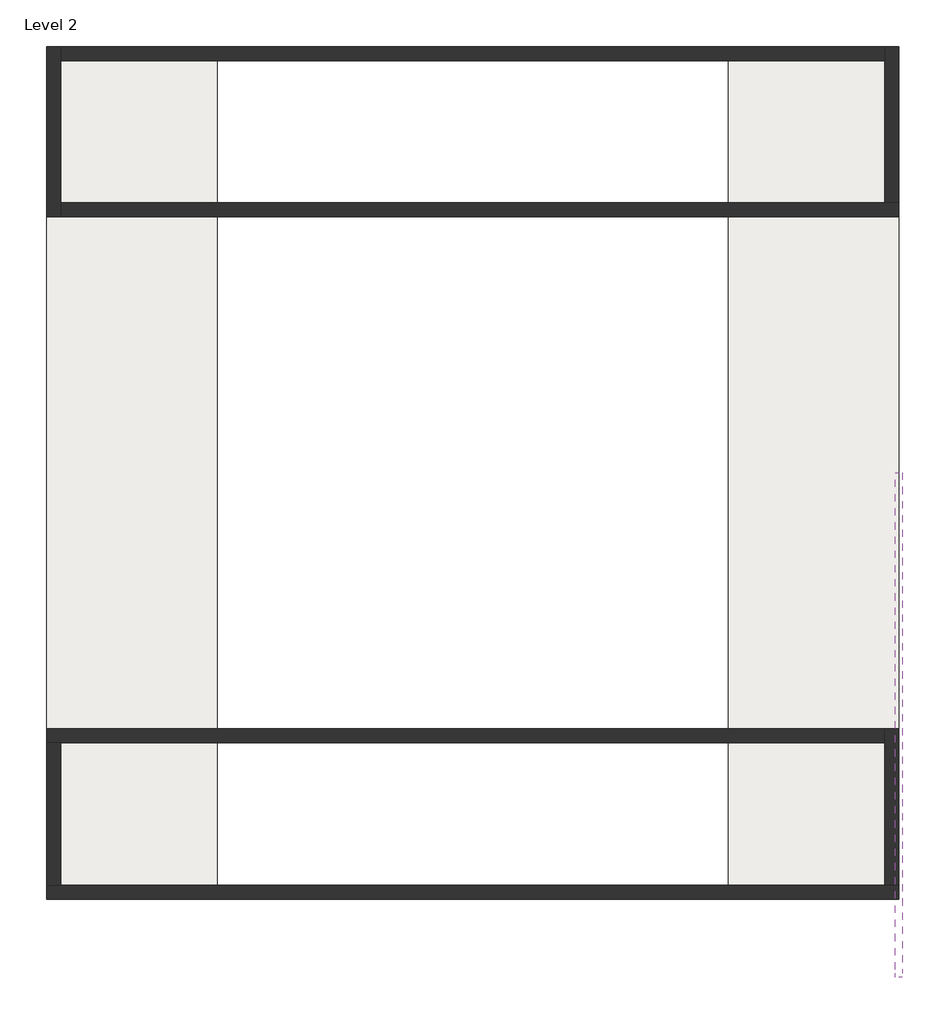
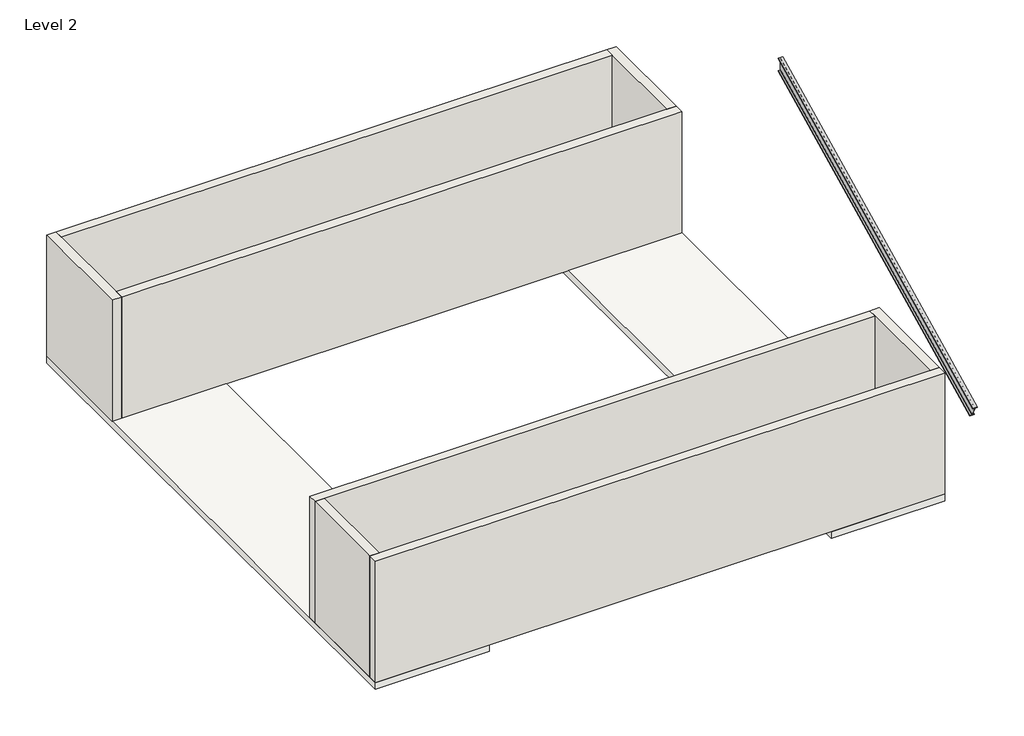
# One storey: 8 walls, 2 slabs, 1 beam.
"""IFC4 building model written with IfcOpenShell, lengths in millimetres."""

from ifc_helpers import new_model, si_unit, frame, origin, place, context, project, spatial, polyline, circle_curve, ellipse_curve, outline, extrude, faceted_brep, element, save
from ifc_brep_helpers import plane_surface, revolved_surface, advanced_brep

model = new_model("IFC4")

# Units and contexts
model_context = context("Model", 3, world=origin())
ifc_project = project(units=[si_unit("LENGTHUNIT", "METRE", prefix="MILLI")], contexts=[model_context])

# Site, building, storey
site = spatial("IfcSite", under=ifc_project)
building = spatial("IfcBuilding", under=site)
storey = spatial("IfcBuildingStorey", under=building, Name="Level 2", Elevation=3290.0)

# Beam
placement = place(None, origin())
element("IfcBeam", 1, ObjectType="UB-Universal Beam : 254x102x28UB", at=placement, inside=storey, context=model_context, shape_type="AdvancedBrep", body=[
    advanced_brep(
    [(7919.2608738, -6707.4923762, 5694.2456688), (7919.2608738, -6703.0704259, 5685.2764796), (8021.4608738, -6703.0704259, 5685.2764796), (8021.4608738, -6707.4923762, 5694.2456688), (7981.1108738, -6707.4923762, 5694.2456688), (7973.5108738, -6710.8530584, 5701.0622526), (7973.5108738, -6810.4353796, 5903.048394), (7981.1108738, -6813.7960618, 5909.8649778), (8021.4608738, -6813.7960618, 5909.8649778), (8021.4608738, -6818.2180121, 5918.834167), (7919.2608738, -6818.2180121, 5918.834167), (7919.2608738, -6813.7960618, 5909.8649778), (7959.6108738, -6813.7960618, 5909.8649778), (7967.2108738, -6810.4353796, 5903.048394), (7967.2108738, -6710.8530584, 5701.0622526), (7959.6108738, -6707.4923762, 5694.2456688), (7959.6108738, 385.3937471, 9191.1492628), (7919.2608738, 385.3937471, 9191.1492628), (7967.2108738, 385.3937178, 9199.622701), (7967.2108738, 385.3928489, 9450.704053), (7959.6108738, 385.3928195, 9459.1774912), (7919.2608738, 385.3928195, 9459.1774912), (7919.2608738, 385.392781, 9470.326752), (8021.4608738, 385.392781, 9470.326752), (8021.4608738, 385.3928195, 9459.1774912), (7981.1108738, 385.3928195, 9459.1774912), (7973.5108738, 385.3928489, 9450.704053), (7973.5108738, 385.3937178, 9199.622701), (7981.1108738, 385.3937471, 9191.1492628), (8021.4608738, 385.3937471, 9191.1492628), (8021.4608738, 385.3937857, 9180.0000021), (7919.2608738, 385.3937857, 9180.0000021)],
    [
        (0, 1),
        (1, 2),
        (2, 3),
        (3, 4),
        (4, 5, circle_curve(frame((7981.1108738, -6710.8530584, 5701.0622526), z_axis=(0.0, 0.89691892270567, 0.4421950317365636), x_axis=(0.0, 0.4421950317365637, -0.8969189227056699)), 7.6)),
        (5, 6),
        (6, 7, circle_curve(frame((7981.1108738, -6810.4353796, 5903.048394), z_axis=(0.0, 0.89691892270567, 0.4421950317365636), x_axis=(-1.0, 0.0, 0.0)), 7.6)),
        (7, 8),
        (8, 9),
        (9, 10),
        (10, 11),
        (11, 12),
        (12, 13, circle_curve(frame((7959.6108738, -6810.4353796, 5903.048394), z_axis=(0.0, 0.89691892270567, 0.4421950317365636), x_axis=(0.0, -0.4421950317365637, 0.8969189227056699)), 7.6)),
        (13, 14),
        (14, 15, circle_curve(frame((7959.6108738, -6710.8530584, 5701.0622526), z_axis=(0.0, 0.89691892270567, 0.4421950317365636), x_axis=(1.0, 0.0, 0.0)), 7.6)),
        (15, 0),
        (16, 17),
        (17, 0),
        (15, 16),
        (18, 16, ellipse_curve(frame((7959.6108738, 385.3937178, 9199.622701), z_axis=(0.0, 0.9999999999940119, 3.4606665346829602e-06), x_axis=(0.0, 3.460666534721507e-06, -0.9999999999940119)), 8.4734382, 7.6)),
        (14, 18),
        (19, 18),
        (13, 19),
        (20, 19, ellipse_curve(frame((7959.6108738, 385.3928489, 9450.704053), z_axis=(0.0, 0.9999999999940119, 3.4606665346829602e-06), x_axis=(0.0, 3.460666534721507e-06, -0.9999999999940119)), 8.4734382, 7.6)),
        (12, 20),
        (21, 20),
        (11, 21),
        (22, 21),
        (10, 22),
        (23, 22),
        (9, 23),
        (24, 23),
        (8, 24),
        (25, 24),
        (7, 25),
        (26, 25, ellipse_curve(frame((7981.1108738, 385.3928489, 9450.704053), z_axis=(0.0, 0.9999999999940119, 3.4606665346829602e-06), x_axis=(0.0, 3.460666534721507e-06, -0.9999999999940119)), 8.4734382, 7.6)),
        (6, 26),
        (27, 26),
        (5, 27),
        (28, 27, ellipse_curve(frame((7981.1108738, 385.3937178, 9199.622701), z_axis=(0.0, 0.9999999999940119, 3.4606665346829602e-06), x_axis=(0.0, 3.460666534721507e-06, -0.9999999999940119)), 8.4734382, 7.6)),
        (4, 28),
        (29, 28),
        (3, 29),
        (30, 29),
        (2, 30),
        (31, 30),
        (1, 31),
        (17, 31),
    ],
    [
        plane_surface(frame((7970.3608738, -6760.644219, 5802.0553233), z_axis=(0.0, -0.8969189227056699, -0.4421950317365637), x_axis=(0.0, -0.4421950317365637, 0.8969189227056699))),
        plane_surface(frame((7939.4358738, 380.9718332, 9188.9691903), z_axis=(0.0, -0.4421950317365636, 0.89691892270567), x_axis=(1.0, 0.0, 0.0))),
        revolved_surface(polyline([(7967.210873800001, -6710.853058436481, 5701.062252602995), (7967.210873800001, 388.75437071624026, 9201.279555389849)]), (7959.6108738, 377.611151, 9195.7857741), (0.0, -0.89691892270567, -0.4421950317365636)),
        plane_surface(frame((7967.2108738, 327.8199904, 9296.7788448), z_axis=(-1.0, 0.0, 0.0), x_axis=(0.0, -0.4421950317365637, 0.8969189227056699))),
        revolved_surface(polyline([(7959.6108738, -6813.796061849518, 5909.864977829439), (7959.6108738, 385.3928195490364, 9459.17749125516)]), (7959.6108738, 278.0288298, 9397.7719155), (0.0, -0.89691892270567, -0.4421950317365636)),
        plane_surface(frame((7939.4358738, 274.6681476, 9404.5884993), z_axis=(0.0, 0.4421950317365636, -0.89691892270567), x_axis=(-1.0, 0.0, 0.0))),
        plane_surface(frame((7919.2608738, 272.4571724, 9409.0730939), z_axis=(-1.0, 0.0, 0.0), x_axis=(0.0, -0.4421950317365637, 0.8969189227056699))),
        plane_surface(frame((7970.3608738, 270.2461973, 9413.5576885), z_axis=(0.0, -0.4421950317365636, 0.89691892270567), x_axis=(1.0, 0.0, 0.0))),
        plane_surface(frame((8021.4608738, 272.4571724, 9409.0730939), z_axis=(1.0, 0.0, 0.0), x_axis=(0.0, 0.4421950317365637, -0.8969189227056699))),
        plane_surface(frame((8001.2858738, 274.6681476, 9404.5884993), z_axis=(0.0, 0.4421950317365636, -0.89691892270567), x_axis=(-1.0, 0.0, 0.0))),
        revolved_surface(polyline([(7973.5108738, -6810.4353796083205, 5903.048394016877), (7973.5108738, 388.7535017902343, 9452.360907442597)]), (7981.1108738, 278.0288298, 9397.7719155), (0.0, -0.89691892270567, -0.4421950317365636)),
        plane_surface(frame((7973.5108738, 327.8199904, 9296.7788448), z_axis=(1.0, 0.0, 0.0), x_axis=(0.0, 0.4421950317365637, -0.8969189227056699))),
        revolved_surface(polyline([(7981.1108738, -6707.492376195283, 5694.245668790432), (7981.1108738, 392.11505295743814, 9194.462971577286)]), (7981.1108738, 377.611151, 9195.7857741), (0.0, -0.89691892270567, -0.4421950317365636)),
        plane_surface(frame((8001.2858738, 380.9718332, 9188.9691903), z_axis=(0.0, -0.4421950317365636, 0.89691892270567), x_axis=(1.0, 0.0, 0.0))),
        plane_surface(frame((8021.4608738, 383.1828084, 9184.4845957), z_axis=(1.0, 0.0, 0.0), x_axis=(0.0, 0.4421950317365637, -0.8969189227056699))),
        plane_surface(frame((7970.3608738, 385.3937835, 9180.0000011), z_axis=(0.0, 0.4421950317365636, -0.89691892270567), x_axis=(-1.0, 0.0, 0.0))),
        plane_surface(frame((7919.2608738, 383.1828084, 9184.4845957), z_axis=(-1.0, 0.0, 0.0), x_axis=(0.0, -0.4421950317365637, 0.8969189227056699))),
        plane_surface(frame((7970.3608738, 385.3937857, 9180.0000021), z_axis=(0.0, 0.9999999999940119, 3.4606665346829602e-06), x_axis=(0.0, 3.4606665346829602e-06, -0.9999999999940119))),
    ],
    [
        (0, [[1, 2, 3, 4, 5, 6, 7, 8, 9, 10, 11, 12, 13, 14, 15, 16]]),
        (1, [[17, 18, -16, 19]]),
        (2, [[20, -19, -15, 21]]),
        (3, [[22, -21, -14, 23]]),
        (4, [[24, -23, -13, 25]]),
        (5, [[26, -25, -12, 27]]),
        (6, [[28, -27, -11, 29]]),
        (7, [[30, -29, -10, 31]]),
        (8, [[32, -31, -9, 33]]),
        (9, [[34, -33, -8, 35]]),
        (10, [[36, -35, -7, 37]]),
        (11, [[38, -37, -6, 39]]),
        (12, [[40, -39, -5, 41]]),
        (13, [[42, -41, -4, 43]]),
        (14, [[44, -43, -3, 45]]),
        (15, [[46, -45, -2, 47]]),
        (16, [[48, -47, -1, -18]]),
        (17, [[-17, -20, -22, -24, -26, -28, -30, -32, -34, -36, -38, -40, -42, -44, -46, -48]]),
    ],
),
])

# Slabs
element("IfcSlab", 2, ObjectType="150mm Foundation Slab", at=placement, inside=storey, context=model_context, shape_type="SweptSolid", body=[
    extrude(outline(polyline([(7970.3608738, 6470.3937814), (7970.3608738, -5699.6062186), (5540.3608738, -5699.6062186), (5540.3608738, 6470.3937814), (7970.3608738, 6470.3937814)])), frame((0.0, 0.0, 3140.0), z_axis=(0.0, 0.0, 1.0), x_axis=(1.0, 0.0, 0.0)), (0.0, 0.0, 1.0), 150.0),
])
element("IfcSlab", 3, ObjectType="150mm Foundation Slab", at=placement, inside=storey, context=model_context, shape_type="SweptSolid", body=[
    extrude(outline(polyline([(-1761.6391262, 6470.3937814), (-1761.6391262, -5699.6062186), (-4199.6391262, -5699.6062186), (-4199.6391262, 6470.3937814), (-1761.6391262, 6470.3937814)])), frame((0.0, 0.0, 3140.0), z_axis=(0.0, 0.0, 1.0), x_axis=(1.0, 0.0, 0.0)), (0.0, 0.0, 1.0), 150.0),
])

# Walls
element("IfcWall", 4, ObjectType="Generic - 200mm", at=placement, inside=storey, context=model_context, shape_type="Brep", body=[
    faceted_brep([(-4199.6391262, 6470.3937814, 3290.0), (-4199.6391262, 4040.3937814, 3290.0), (-4199.6391262, 4040.3937814, 6030.0), (-4199.6391262, 6470.3937814, 6030.0), (-3999.6391262, 6470.3937814, 3290.0), (-3999.6391262, 6470.3937814, 6030.0), (-3999.6391262, 6270.3937814, 6030.0), (-3999.6391262, 4240.3937814, 6030.0), (-3999.6391262, 4040.3937814, 6030.0), (-3999.6391262, 4040.3937814, 3290.0), (-3999.6391262, 4240.3937814, 3290.0), (-3999.6391262, 6270.3937814, 3290.0)], [[[0, 1, 2, 3]], [[4, 5, 6, 7, 8, 9, 10, 11]], [[1, 0, 4, 11, 10, 9]], [[2, 1, 9, 8]], [[0, 3, 5, 4]], [[3, 2, 8, 7, 6, 5]]]),
])
element("IfcWall", 5, ObjectType="Generic - 200mm", at=placement, inside=storey, context=model_context, shape_type="Brep", body=[
    faceted_brep([(-3999.6391262, 4040.3937814, 3290.0), (7970.3608738, 4040.3937814, 3290.0), (7970.3608738, 4040.3937814, 6030.0), (-3999.6391262, 4040.3937814, 6030.0), (-3999.6391262, 4240.3937814, 3290.0), (-3999.6391262, 4240.3937814, 6030.0), (7770.3608738, 4240.3937814, 6030.0), (7970.3608738, 4240.3937814, 6030.0), (7970.3608738, 4240.3937814, 3290.0), (7770.3608738, 4240.3937814, 3290.0)], [[[0, 1, 2, 3]], [[4, 5, 6, 7, 8, 9]], [[1, 0, 4, 9, 8]], [[0, 3, 5, 4]], [[2, 1, 8, 7]], [[3, 2, 7, 6, 5]]]),
])
element("IfcWall", 6, ObjectType="Generic - 200mm", at=placement, inside=storey, context=model_context, shape_type="Brep", body=[
    faceted_brep([(7970.3608738, 4240.3937814, 3290.0), (7970.3608738, 6470.3937814, 3290.0), (7970.3608738, 6470.3937814, 6030.0), (7970.3608738, 4240.3937814, 6030.0), (7770.3608738, 4240.3937814, 3290.0), (7770.3608738, 4240.3937814, 6030.0), (7770.3608738, 6270.3937814, 6030.0), (7770.3608738, 6470.3937814, 6030.0), (7770.3608738, 6470.3937814, 3290.0), (7770.3608738, 6270.3937814, 3290.0)], [[[0, 1, 2, 3]], [[4, 5, 6, 7, 8, 9]], [[1, 0, 4, 9, 8]], [[0, 3, 5, 4]], [[2, 1, 8, 7]], [[3, 2, 7, 6, 5]]]),
])
element("IfcWall", 7, ObjectType="Generic - 200mm", at=placement, inside=storey, context=model_context, shape_type="SweptSolid", body=[
    extrude(outline(polyline([(-3999.6391262, 6470.3937814), (7770.3608738, 6470.3937814), (7770.3608738, 6270.3937814), (-3999.6391262, 6270.3937814), (-3999.6391262, 6470.3937814)])), frame((0.0, 0.0, 3290.0), z_axis=(0.0, 0.0, 1.0), x_axis=(1.0, 0.0, 0.0)), (0.0, 0.0, 1.0), 2740.0),
])
element("IfcWall", 8, ObjectType="Generic - 200mm", at=placement, inside=storey, context=model_context, shape_type="Brep", body=[
    faceted_brep([(-4199.6391262, -5699.6062186, 3290.0), (7970.3608738, -5699.6062186, 3290.0), (7970.3608738, -5699.6062186, 6030.0), (-4199.6391262, -5699.6062186, 6030.0), (-4199.6391262, -5499.6062186, 3290.0), (-4199.6391262, -5499.6062186, 6030.0), (-3999.6391262, -5499.6062186, 6030.0), (7770.3608738, -5499.6062186, 6030.0), (7970.3608738, -5499.6062186, 6030.0), (7970.3608738, -5499.6062186, 3290.0), (7770.3608738, -5499.6062186, 3290.0), (-3999.6391262, -5499.6062186, 3290.0)], [[[0, 1, 2, 3]], [[4, 5, 6, 7, 8, 9, 10, 11]], [[1, 0, 4, 11, 10, 9]], [[2, 1, 9, 8]], [[0, 3, 5, 4]], [[3, 2, 8, 7, 6, 5]]]),
])
element("IfcWall", 9, ObjectType="Generic - 200mm", at=placement, inside=storey, context=model_context, shape_type="Brep", body=[
    faceted_brep([(7970.3608738, -5499.6062186, 3290.0), (7970.3608738, -3269.6062186, 3290.0), (7970.3608738, -3269.6062186, 6030.0), (7970.3608738, -5499.6062186, 6030.0), (7770.3608738, -5499.6062186, 3290.0), (7770.3608738, -5499.6062186, 6030.0), (7770.3608738, -3469.6062186, 6030.0), (7770.3608738, -3269.6062186, 6030.0), (7770.3608738, -3269.6062186, 3290.0), (7770.3608738, -3469.6062186, 3290.0)], [[[0, 1, 2, 3]], [[4, 5, 6, 7, 8, 9]], [[1, 0, 4, 9, 8]], [[0, 3, 5, 4]], [[2, 1, 8, 7]], [[3, 2, 7, 6, 5]]]),
])
element("IfcWall", 10, ObjectType="Generic - 200mm", at=placement, inside=storey, context=model_context, shape_type="Brep", body=[
    faceted_brep([(7770.3608738, -3269.6062186, 3290.0), (-4199.6391262, -3269.6062186, 3290.0), (-4199.6391262, -3269.6062186, 6030.0), (7770.3608738, -3269.6062186, 6030.0), (7770.3608738, -3469.6062186, 3290.0), (7770.3608738, -3469.6062186, 6030.0), (-3999.6391262, -3469.6062186, 6030.0), (-4199.6391262, -3469.6062186, 6030.0), (-4199.6391262, -3469.6062186, 3290.0), (-3999.6391262, -3469.6062186, 3290.0)], [[[0, 1, 2, 3]], [[4, 5, 6, 7, 8, 9]], [[1, 0, 4, 9, 8]], [[0, 3, 5, 4]], [[2, 1, 8, 7]], [[3, 2, 7, 6, 5]]]),
])
element("IfcWall", 11, ObjectType="Generic - 200mm", at=placement, inside=storey, context=model_context, shape_type="SweptSolid", body=[
    extrude(outline(polyline([(-4199.6391262, -5499.6062186), (-4199.6391262, -3469.6062186), (-3999.6391262, -3469.6062186), (-3999.6391262, -5499.6062186), (-4199.6391262, -5499.6062186)])), frame((0.0, 0.0, 3290.0), z_axis=(0.0, 0.0, 1.0), x_axis=(1.0, 0.0, 0.0)), (0.0, 0.0, 1.0), 2740.0),
])

save(model, "model.ifc")
